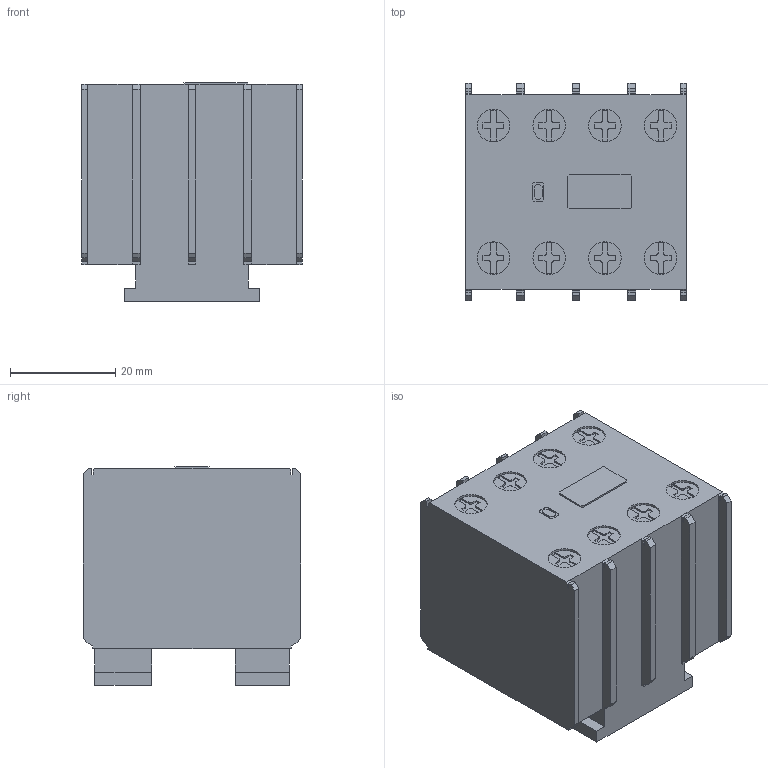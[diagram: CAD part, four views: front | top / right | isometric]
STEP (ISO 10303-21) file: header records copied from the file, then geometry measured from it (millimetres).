
FILE_DESCRIPTION (( 'STEP AP214' ), '1' );
FILE_NAME ('3d_K-FX-101111.STEP', '2026-02-26T10:31:31', ( '' ), ( '' ), 'SwSTEP 2.0', 'SolidWorks 2018', '' );
FILE_SCHEMA (( 'AUTOMOTIVE_DESIGN' ));
Length unit declared in the file: millimetre
Products named in the file (2): 3d_K-FX-101111
Bounding box: 42 x 41.4 x 41.6 mm (x, y, z)
Volume: 57568.3 mm3; surface area: 11289.3 mm2
Topology: 1 solids, 1 shells, 363 faces, 1026 edges, 684 vertices
Faces by surface type: plane 283, cylinder 80
Entity records: 11709 total; most frequent: CARTESIAN_POINT 2075, ORIENTED_EDGE 2052, DIRECTION 1916, EDGE_CURVE 1026, VECTOR 866, LINE 866, VERTEX_POINT 684, AXIS2_PLACEMENT_3D 525
